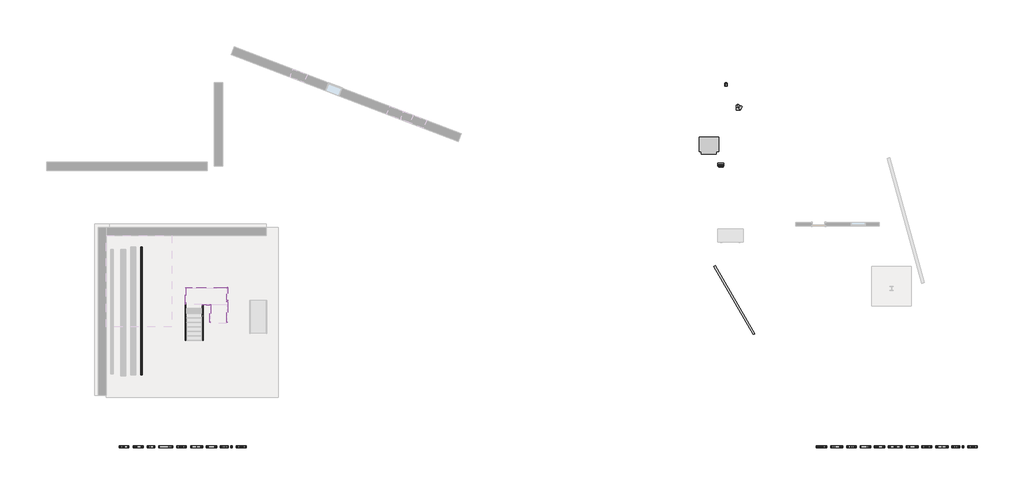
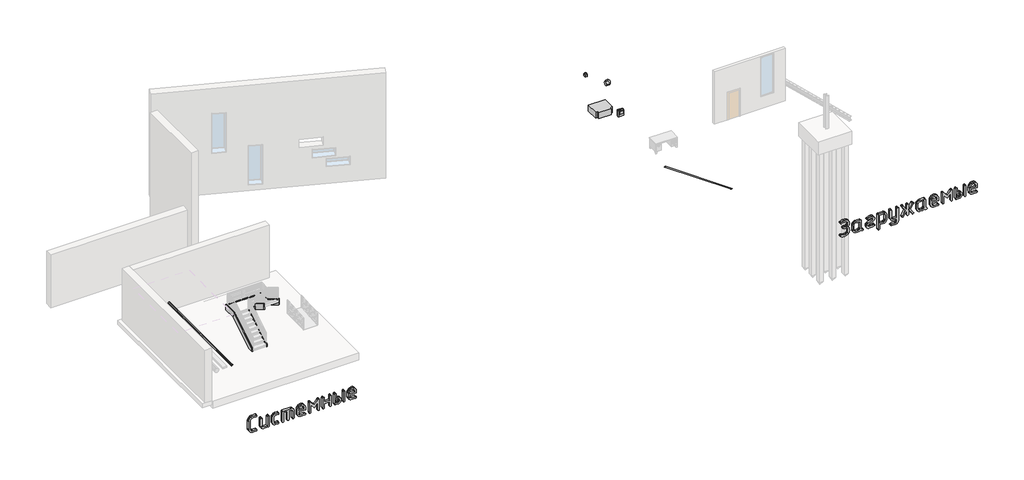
# One storey, part 5 of 6: 8 members, 4 proxies, 2 duct fittings, 1 cable carrier segment, 1 damper.
"""IFC4 building model written with IfcOpenShell, lengths in millimetres."""

from ifc_helpers import new_model, si_unit, point, frame, frame_2d, origin, place, context, project, spatial, polyline, circle_curve, trimmed, segment, composite_curve, outline, extrude, faceted_brep, transform, mapped, element, save
from components import mechanical_equipment_a20b9884, parking_5b8ad055, damper_459daeea, duct_fitting_f00111ba, duct_fitting_fdeae395

model = new_model("IFC4")

# Units and contexts
model_context = context("Model", 3, world=origin())
ifc_project = project(units=[si_unit("LENGTHUNIT", "METRE", prefix="MILLI")], contexts=[model_context])

# Site, building, storey
site = spatial("IfcSite", under=ifc_project)
building = spatial("IfcBuilding", under=site)
storey = spatial("IfcBuildingStorey", under=building, Name="Уровень 1", Elevation=0.0)

# Proxies
placement = place(None, origin())
element("IfcBuildingElementProxy", 1, Name="600 мм Arial", ObjectType="600 мм Arial", at=placement, inside=storey, context=model_context, shape_type="SweptSolid", body=[
    extrude(outline(polyline([(368.4887498, -11532.2012862), (368.4887498, -11772.6391287), (363.0191483, -11832.3779592), (346.6103438, -11887.2424426), (319.2623362, -11937.2325789), (280.9751256, -11982.348368), (234.9383769, -12019.6921566), (184.341755, -12046.3662913), (129.18526, -12062.3707721), (69.4688919, -12067.705599), (-528.5708239, -12067.705599), (-588.287192, -12062.3707721), (-643.443687, -12046.3662913), (-694.0403088, -12019.6921566), (-740.0770575, -11982.348368), (-778.3642682, -11937.2325789), (-805.7122757, -11887.2424426), (-822.1210803, -11832.3779592), (-827.5906818, -11772.6391287), (-827.5906818, -11532.2012862), (-823.9966931, -11505.9427064), (-813.2147271, -11487.186578), (-795.2447837, -11475.932901), (-770.086863, -11472.1816753), (-744.9289422, -11475.932901), (-726.9589989, -11487.186578), (-716.1770328, -11505.9427064), (-712.5830442, -11532.2012862), (-712.5830442, -11772.6391287), (-709.2698358, -11808.4891657), (-699.3302109, -11841.6437113), (-682.7641694, -11872.1027653), (-659.5717112, -11899.8663278), (-631.6846053, -11922.9801675), (-601.0346206, -11939.490053), (-567.6217571, -11949.3959843), (-531.4460148, -11952.6979614), (72.3440829, -11952.6979614), (96.5361192, -11951.1480538), (119.8745831, -11946.4983309), (142.3594748, -11938.7487928), (163.9907941, -11927.8994395), (203.1428083, -11898.7881312), (218.5239567, -11881.8065347), (231.1085327, -11863.2076433), (240.8965362, -11842.991457), (247.8879673, -11821.1579758), (253.4811122, -11772.6391287), (253.4811122, -11532.2012862), (257.0751009, -11505.9427064), (267.8570669, -11487.186578), (285.8270103, -11475.932901), (310.984931, -11472.1816753), (336.1428518, -11475.932901), (354.1127951, -11487.186578), (364.8947612, -11505.9427064), (368.4887498, -11532.2012862)])), frame((0.0, 248.4758454, 0.0), z_axis=(0.0, 1.0, 0.0), x_axis=(0.0, 0.0, 1.0)), (0.0, 0.0, 1.0), 150.0),
    extrude(outline(polyline([(-37.2725718, -10595.607837), (-10.699518, -10599.2018257), (8.2812347, -10609.9837917), (19.6696863, -10627.9537351), (23.4658369, -10653.1116558), (19.6247615, -10678.2695766), (8.1015353, -10696.2395199), (-11.1038417, -10707.021486), (-37.9913695, -10710.6154747), (-712.5830442, -10710.6154747), (-712.5830442, -10971.1796537), (-710.3143388, -10997.0114473), (-703.5082227, -11020.9563969), (-692.164696, -11043.0145024), (-676.2837585, -11063.1857639), (-657.2805434, -11080.0101233), (-636.5701836, -11092.027523), (-614.1526793, -11099.2379628), (-590.0280303, -11101.6414427), (-37.9913695, -11101.6414427), (-11.1038417, -11105.2354314), (8.1015353, -11116.0173974), (19.6247615, -11133.9873408), (23.4658369, -11159.1452615), (19.6696863, -11184.3031823), (8.2812347, -11202.2731257), (-10.699518, -11213.0550917), (-37.2725718, -11216.6490804), (-584.2776484, -11216.6490804), (-633.4928308, -11212.1453633), (-678.7097009, -11198.6342121), (-719.9282585, -11176.1156268), (-757.1485037, -11144.5896074), (-787.9669567, -11106.5494835), (-809.9801373, -11064.4885848), (-823.1880457, -11018.4069112), (-827.5906818, -10968.3044628), (-827.5906818, -10657.7838411), (-823.7945313, -10630.5818393), (-812.4060797, -10611.151838), (-793.425327, -10599.4938373), (-766.8522732, -10595.607837), (-37.2725718, -10595.607837)])), frame((0.0, 248.4758454, 0.0), z_axis=(0.0, 1.0, 0.0), x_axis=(0.0, 0.0, 1.0)), (0.0, 0.0, 1.0), 150.0),
    extrude(outline(polyline([(-234.2231513, -10250.584924), (-210.188352, -10248.3948372), (-188.0403968, -10241.8245766), (-167.7792856, -10230.8741424), (-149.4050185, -10215.5435344), (-134.153029, -10197.0906488), (-123.2587509, -10176.7733816), (-116.722184, -10154.5917327), (-114.5433283, -10130.5457022), (-114.5433283, -9950.1274706), (-110.9493396, -9923.8688909), (-100.1673736, -9905.1127625), (-82.1974302, -9893.8590854), (-57.0395095, -9890.1078597), (-31.8815888, -9893.8590854), (-13.9116454, -9905.1127625), (-3.1296793, -9923.8688909), (0.4643093, -9950.1274706), (0.4643093, -10130.5457022), (-3.8260146, -10178.9185436), (-16.6969866, -10223.0459858), (-38.1486065, -10262.9280289), (-68.1808744, -10298.5646729), (-104.4127727, -10327.8893742), (-144.4632841, -10348.8355895), (-188.3324083, -10361.4033186), (-236.0201456, -10365.5925617), (-591.1062269, -10365.5925617), (-638.7939641, -10361.4033186), (-682.6630884, -10348.8355895), (-722.7135997, -10327.8893742), (-758.9454981, -10298.5646729), (-788.977766, -10262.9280289), (-810.4293859, -10223.0459858), (-823.3003578, -10178.9185436), (-827.5906818, -10130.5457022), (-827.5906818, -9950.1274706), (-823.9966931, -9923.8688909), (-813.2147271, -9905.1127625), (-795.2447837, -9893.8590854), (-770.086863, -9890.1078597), (-744.9289422, -9893.8590854), (-726.9589989, -9905.1127625), (-716.1770328, -9923.8688909), (-712.5830442, -9950.1274706), (-712.5830442, -10130.5457022), (-710.3704949, -10154.1537153), (-703.732847, -10176.0995087), (-692.6701006, -10196.3830823), (-677.1822557, -10215.0044361), (-658.6395204, -10230.5708996), (-638.4121028, -10241.689802), (-616.5000031, -10248.3611435), (-592.9032212, -10250.584924), (-234.2231513, -10250.584924)])), frame((0.0, 248.4758454, 0.0), z_axis=(0.0, 1.0, 0.0), x_axis=(0.0, 0.0, 1.0)), (0.0, 0.0, 1.0), 150.0),
    extrude(outline(polyline([(0.4643093, -9591.8067995), (-3.2419915, -9618.3798533), (-14.360894, -9637.360606), (-32.8923981, -9648.7490576), (-58.8365038, -9652.5452082), (-768.2898686, -9652.5452082), (-794.2339744, -9648.9512195), (-812.7654785, -9638.1692535), (-823.884381, -9620.1993101), (-827.5906818, -9595.0413894), (-823.884381, -9569.8834686), (-812.7654785, -9551.9135252), (-794.2339744, -9541.1315592), (-768.2898686, -9537.5375705), (-114.5433283, -9537.5375705), (-114.5433283, -9284.5207677), (-768.2898686, -9284.5207677), (-794.2339744, -9280.926779), (-812.7654785, -9270.144813), (-823.884381, -9252.1748696), (-827.5906818, -9227.0169488), (-823.884381, -9201.8590281), (-812.7654785, -9183.8890847), (-794.2339744, -9173.1071187), (-768.2898686, -9169.51313), (-114.5433283, -9169.51313), (-114.5433283, -9043.0047286), (-116.6772591, -9017.2964783), (-123.0790514, -8993.7221589), (-133.7487053, -8972.2817702), (-148.6862208, -8952.9753122), (-166.7909387, -8937.0157563), (-186.9622002, -8925.6160734), (-209.2000051, -8918.7762637), (-233.5043535, -8916.4963272), (-768.2898686, -8916.4963272), (-794.2339744, -8912.9023385), (-812.7654785, -8902.1203725), (-823.884381, -8884.1504291), (-827.5906818, -8858.9925083), (-823.884381, -8833.8345876), (-812.7654785, -8815.8646442), (-794.2339744, -8805.0826782), (-768.2898686, -8801.4886895), (-236.0201456, -8801.4886895), (-188.6244199, -8805.9250193), (-144.9125326, -8819.2340086), (-104.8844838, -8841.4156575), (-68.5402733, -8872.4699659), (-38.3507684, -8909.8586793), (-16.7868363, -8951.0435433), (-3.8484771, -8996.0245579), (0.4643093, -9044.8017229), (0.4643093, -9591.8067995)])), frame((0.0, 248.4758454, 0.0), z_axis=(0.0, 1.0, 0.0), x_axis=(0.0, 0.0, 1.0)), (0.0, 0.0, 1.0), 150.0),
    extrude(outline(polyline([(-459.5662413, -8456.4657765), (-459.5662413, -7975.9494904), (-278.429212, -7975.9494904), (-217.3089421, -7981.3853983), (-161.1753314, -7997.6931219), (-110.02838, -8024.8726613), (-63.868088, -8062.9240164), (-25.6594959, -8108.8821466), (1.6323557, -8159.7820113), (18.0074666, -8215.6236103), (23.4658369, -8276.4069438), (17.9063856, -8336.1457744), (1.2280319, -8391.0102577), (-26.5692242, -8441.000394), (-65.4853829, -8486.1161831), (-112.2858542, -8523.4599717), (-163.7360483, -8550.1341064), (-219.8359653, -8566.1385872), (-280.5856052, -8571.4734142), (-584.2776484, -8571.4734142), (-633.4928308, -8567.2841711), (-678.7097009, -8554.716442), (-719.9282585, -8533.7702267), (-757.1485037, -8504.4455254), (-787.9669567, -8468.8088814), (-809.9801373, -8428.9268383), (-823.1880457, -8384.7993961), (-827.5906818, -8336.4265547), (-827.5906818, -8035.9691013), (-823.9966931, -8009.7105216), (-813.2147271, -7990.9543932), (-795.2447837, -7979.7007161), (-770.086863, -7975.9494904), (-744.9289422, -7979.7007161), (-726.9589989, -7990.9543932), (-716.1770328, -8009.7105216), (-712.5830442, -8035.9691013), (-712.5830442, -8336.4265547), (-710.2469515, -8360.0345678), (-703.2386736, -8381.9803612), (-691.5582104, -8402.2639348), (-675.2055619, -8420.8852886), (-655.6183236, -8436.4517521), (-634.234091, -8447.5706546), (-611.052864, -8454.241996), (-586.0746427, -8456.4657765), (-459.5662413, -8456.4657765)]), holes=[polyline([(-104.48016, -8276.4069438), (-107.7821371, -8240.3996698), (-117.6880684, -8207.1328121), (-134.1979539, -8176.6063707), (-157.3117936, -8148.8203458), (-185.0753561, -8125.7065061), (-215.5344101, -8109.1966206), (-248.6889557, -8099.2906893), (-284.5389927, -8095.9887122), (-344.5586036, -8095.9887122), (-344.5586036, -8456.4657765), (-284.5389927, -8456.4657765), (-248.6889557, -8453.1637994), (-215.5344101, -8443.2578681), (-185.0753561, -8426.7479827), (-157.3117936, -8403.634143), (-134.1979539, -8375.8705804), (-117.6880684, -8345.4115264), (-107.7821371, -8312.2569809), (-104.48016, -8276.4069438)])]), frame((0.0, 248.4758454, 0.0), z_axis=(0.0, 1.0, 0.0), x_axis=(0.0, 0.0, 1.0)), (0.0, 0.0, 1.0), 150.0),
    extrude(outline(polyline([(-519.9452511, -7355.9864437), (-212.2998203, -7106.9230284), (-766.8522732, -7099.3756521), (-793.425327, -7095.7816635), (-812.4060797, -7084.9996974), (-823.7945313, -7067.0297541), (-827.5906818, -7041.8718333), (-823.7945313, -7016.7139126), (-812.4060797, -6998.7439692), (-793.425327, -6987.9620032), (-766.8522732, -6984.3680145), (-37.2725718, -6984.3680145), (-10.699518, -6987.9620032), (8.2812347, -6998.7439692), (19.6696863, -7016.7139126), (23.4658369, -7041.8718333), (21.0848194, -7056.247788), (13.9417669, -7070.6237427), (2.0366794, -7084.9996974), (-14.6304431, -7099.3756521), (-322.2758738, -7352.392455), (-14.6304431, -7605.4092578), (2.0366794, -7619.7852126), (13.9417669, -7634.1611673), (21.0848194, -7648.537122), (23.4658369, -7662.9130767), (19.6696863, -7688.0709974), (8.2812347, -7706.0409408), (-10.699518, -7716.8229068), (-37.2725718, -7720.4168955), (-766.8522732, -7720.4168955), (-793.425327, -7716.8229068), (-812.4060797, -7706.0409408), (-823.7945313, -7688.0709974), (-827.5906818, -7662.9130767), (-823.7945313, -7637.7551559), (-812.4060797, -7619.7852126), (-793.425327, -7609.0032465), (-766.8522732, -7605.4092578), (-212.2998203, -7605.4092578), (-519.9452511, -7355.9864437)])), frame((0.0, 248.4758454, 0.0), z_axis=(0.0, 1.0, 0.0), x_axis=(0.0, 0.0, 1.0)), (0.0, 0.0, 1.0), 150.0),
    extrude(outline(polyline([(-459.5662413, -6639.3451015), (-459.5662413, -6248.3191335), (-766.1334754, -6248.3191335), (-793.0210032, -6244.7251448), (-812.2263802, -6233.9431788), (-823.7496064, -6215.9732354), (-827.5906818, -6190.8153146), (-823.7945313, -6165.6573939), (-812.4060797, -6147.6874505), (-793.425327, -6136.9054845), (-766.8522732, -6133.3114958), (-37.2725718, -6133.3114958), (-10.699518, -6136.9054845), (8.2812347, -6147.6874505), (19.6696863, -6165.6573939), (23.4658369, -6190.8153146), (19.6247615, -6215.9732354), (8.1015353, -6233.9431788), (-11.1038417, -6244.7251448), (-37.9913695, -6248.3191335), (-344.5586036, -6248.3191335), (-344.5586036, -6639.3451015), (-37.9913695, -6639.3451015), (-11.1038417, -6642.9390902), (8.1015353, -6653.7210562), (19.6247615, -6671.6909996), (23.4658369, -6696.8489203), (19.6696863, -6722.0068411), (8.2812347, -6739.9767845), (-10.699518, -6750.7587505), (-37.2725718, -6754.3527392), (-766.8522732, -6754.3527392), (-793.425327, -6750.7587505), (-812.4060797, -6739.9767845), (-823.7945313, -6722.0068411), (-827.5906818, -6696.8489203), (-823.7496064, -6671.6909996), (-812.2263802, -6653.7210562), (-793.0210032, -6642.9390902), (-766.1334754, -6639.3451015), (-459.5662413, -6639.3451015)])), frame((0.0, 248.4758454, 0.0), z_axis=(0.0, 1.0, 0.0), x_axis=(0.0, 0.0, 1.0)), (0.0, 0.0, 1.0), 150.0),
    extrude(outline(polyline([(-37.2725718, -5282.2549771), (-766.8522732, -5282.2549771), (-793.425327, -5278.6609884), (-812.4060797, -5267.8790224), (-823.7945313, -5249.909079), (-827.5906818, -5224.7511583), (-823.7945313, -5199.5932376), (-812.4060797, -5181.6232942), (-793.425327, -5170.8413281), (-766.8522732, -5167.2473395), (-37.2725718, -5167.2473395), (-10.699518, -5170.8413281), (8.2812347, -5181.6232942), (19.6696863, -5199.5932376), (23.4658369, -5224.7511583), (19.6696863, -5249.909079), (8.2812347, -5267.8790224), (-10.699518, -5278.6609884), (-37.2725718, -5282.2549771)])), frame((0.0, 248.4758454, 0.0), z_axis=(0.0, 1.0, 0.0), x_axis=(0.0, 0.0, 1.0)), (0.0, 0.0, 1.0), 150.0),
    extrude(outline(polyline([(-586.0746427, -5427.8115185), (-537.2076279, -5432.1692298), (-492.3164631, -5445.2423636), (-451.4011483, -5467.03092), (-414.4616834, -5497.5348989), (-383.879086, -5534.3508204), (-362.0343736, -5575.0752046), (-348.9275461, -5619.7080515), (-344.5586036, -5668.249361), (-344.5586036, -5788.2885828), (-37.9913695, -5788.2885828), (-11.1038417, -5791.8825715), (8.1015353, -5802.6645375), (19.6247615, -5820.6344809), (23.4658369, -5845.7924017), (19.6696863, -5870.9503224), (8.2812347, -5888.9202658), (-10.699518, -5899.7022318), (-37.2725718, -5903.2962205), (-766.8522732, -5903.2962205), (-793.425327, -5899.7022318), (-812.4060797, -5888.9202658), (-823.7945313, -5870.9503224), (-827.5906818, -5845.7924017), (-827.5906818, -5668.249361), (-823.2217393, -5619.7080515), (-810.1149119, -5575.0752046), (-788.2701994, -5534.3508204), (-757.687602, -5497.5348989), (-720.7481372, -5467.03092), (-679.8328223, -5445.2423636), (-634.9416575, -5432.1692298), (-586.0746427, -5427.8115185)]), holes=[polyline([(-586.0746427, -5547.8507403), (-611.4908814, -5550.0408272), (-634.9079639, -5556.6110877), (-656.3258901, -5567.561522), (-675.7446602, -5582.8921299), (-691.8614532, -5601.367478), (-703.3734482, -5621.7521325), (-710.2806452, -5644.0460935), (-712.5830442, -5668.249361), (-712.5830442, -5788.2885828), (-459.5662413, -5788.2885828), (-459.5662413, -5668.249361), (-461.8461779, -5643.7540819), (-468.6859876, -5621.3028839), (-480.0856704, -5600.895767), (-496.0452264, -5582.5327311), (-515.3516843, -5567.3593601), (-536.792073, -5556.521238), (-560.3663925, -5550.0183648), (-586.0746427, -5547.8507403)])]), frame((0.0, 248.4758454, 0.0), z_axis=(0.0, 1.0, 0.0), x_axis=(0.0, 0.0, 1.0)), (0.0, 0.0, 1.0), 150.0),
    extrude(outline(polyline([(-459.5662413, -4822.2244265), (-459.5662413, -4341.7081404), (-278.429212, -4341.7081404), (-217.3089421, -4347.1440483), (-161.1753314, -4363.4517719), (-110.02838, -4390.6313113), (-63.868088, -4428.6826664), (-25.6594959, -4474.6407966), (1.6323557, -4525.5406612), (18.0074666, -4581.3822603), (23.4658369, -4642.1655938), (17.9063856, -4701.9044243), (1.2280319, -4756.7689077), (-26.5692242, -4806.759044), (-65.4853829, -4851.8748331), (-112.2858542, -4889.2186217), (-163.7360483, -4915.8927564), (-219.8359653, -4931.8972372), (-280.5856052, -4937.2320641), (-584.2776484, -4937.2320641), (-633.4928308, -4933.0428211), (-678.7097009, -4920.4750919), (-719.9282585, -4899.5288767), (-757.1485037, -4870.2041753), (-787.9669567, -4834.5675313), (-809.9801373, -4794.6854882), (-823.1880457, -4750.558046), (-827.5906818, -4702.1852047), (-827.5906818, -4401.7277513), (-823.9966931, -4375.4691715), (-813.2147271, -4356.7130431), (-795.2447837, -4345.4593661), (-770.086863, -4341.7081404), (-744.9289422, -4345.4593661), (-726.9589989, -4356.7130431), (-716.1770328, -4375.4691715), (-712.5830442, -4401.7277513), (-712.5830442, -4702.1852047), (-710.2469515, -4725.7932178), (-703.2386736, -4747.7390112), (-691.5582104, -4768.0225848), (-675.2055619, -4786.6439386), (-655.6183236, -4802.210402), (-634.234091, -4813.3293045), (-611.052864, -4820.000646), (-586.0746427, -4822.2244265), (-459.5662413, -4822.2244265)]), holes=[polyline([(-104.48016, -4642.1655938), (-107.7821371, -4606.1583197), (-117.6880684, -4572.891462), (-134.1979539, -4542.3650207), (-157.3117936, -4514.5789957), (-185.0753561, -4491.4651561), (-215.5344101, -4474.9552706), (-248.6889557, -4465.0493393), (-284.5389927, -4461.7473622), (-344.5586036, -4461.7473622), (-344.5586036, -4822.2244265), (-284.5389927, -4822.2244265), (-248.6889557, -4818.9224494), (-215.5344101, -4809.0165181), (-185.0753561, -4792.5066326), (-157.3117936, -4769.3927929), (-134.1979539, -4741.6292304), (-117.6880684, -4711.1701764), (-107.7821371, -4678.0156308), (-104.48016, -4642.1655938)])]), frame((0.0, 248.4758454, 0.0), z_axis=(0.0, 1.0, 0.0), x_axis=(0.0, 0.0, 1.0)), (0.0, 0.0, 1.0), 150.0),
])
element("IfcBuildingElementProxy", 2, Name="600 мм Arial", ObjectType="600 мм Arial", at=placement, inside=storey, context=model_context, shape_type="SweptSolid", body=[
    extrude(outline(polyline([(253.4811122, 30670.0590454), (253.4811122, 30730.4380551), (250.122979, 30766.2880922), (240.0485795, 30799.4426377), (223.2579137, 30829.9016918), (199.7509815, 30857.6652543), (171.4820143, 30880.779094), (140.4052434, 30897.2889795), (106.5206689, 30907.1949108), (69.8282908, 30910.4968879), (33.259456, 30907.1724483), (-0.6138873, 30897.1991298), (-31.791739, 30880.5769321), (-60.2740993, 30857.3058554), (-84.016887, 30828.1046974), (-100.9760211, 30793.6922559), (-111.1515015, 30754.0685307), (-114.5433283, 30709.233522), (-114.5433283, 30669.3402476), (-114.5433283, 30633.7597597), (-118.8111899, 30593.8664854), (-124.1460168, 30579.3108313), (-131.6147745, 30568.3491658), (-150.3484405, 30554.6021591), (-172.406546, 30550.0198236), (-194.5994261, 30554.4673846), (-213.0186181, 30567.8100675), (-220.2515203, 30578.7829642), (-225.417879, 30593.9114103), (-229.550966, 30636.6349507), (-229.550966, 30671.137242), (-229.550966, 30707.4365276), (-235.256423, 30766.0859303), (-242.3882443, 30791.9570332), (-252.3727941, 30815.5257371), (-265.2100724, 30836.7920419), (-280.9000792, 30855.7559478), (-299.4428145, 30872.4174547), (-320.8382784, 30886.7765626), (-364.5052408, 30904.5668065), (-411.406793, 30910.4968879), (-531.8054137, 30910.4968879), (-568.2619363, 30907.2286044), (-601.7983432, 30897.423754), (-632.4146342, 30881.0823368), (-660.1108095, 30858.2043526), (-683.0674121, 30830.6092583), (-699.4649855, 30800.1165106), (-709.3035295, 30766.7261096), (-712.5830442, 30730.4380551), (-710.7860498, 30647.5966161), (-705.3950668, 30590.2724967), (-688.9525686, 30526.4791977), (-659.7514106, 30457.2949157), (-654.3604276, 30443.2783599), (-652.5634333, 30429.9806018), (-657.0109942, 30407.2036985), (-670.3536772, 30387.7512348), (-689.8061409, 30374.4085518), (-712.5830442, 30369.9609909), (-728.1944325, 30372.1173841), (-741.9639016, 30378.5865637), (-753.8914515, 30389.3685297), (-763.9770822, 30404.4632822), (-791.8080321, 30466.0777255), (-811.6872819, 30530.8818339), (-823.6148318, 30598.8756071), (-827.5906818, 30670.0590454), (-827.5906818, 30730.4380551), (-822.1435427, 30790.1768857), (-805.8021255, 30845.0413691), (-778.56643, 30895.0315053), (-740.4364564, 30940.1472944), (-694.5569447, 30977.491083), (-644.072635, 31004.1652177), (-588.9835273, 31020.1696986), (-529.2896216, 31025.5045255), (-404.6680643, 31022.7191843), (-331.2608455, 31014.3631606), (-285.6845766, 30999.0662463), (-243.837071, 30975.8176321), (-205.7183286, 30944.6173179), (-171.3283494, 30905.4653037), (-147.6866427, 30933.5994963), (-122.2254791, 30957.9824633), (-94.9448588, 30978.6142045), (-65.8447818, 30995.4947201), (-34.9252479, 31008.62401), (-2.1862573, 31018.0020742), (32.3721901, 31023.6289127), (68.7500942, 31025.5045255), (128.6349305, 31020.1696986), (183.9374313, 31004.1652177), (234.6575965, 30977.491083), (280.7954261, 30940.1472944), (319.1612553, 30895.0315053), (346.5654189, 30845.0413691), (363.0079171, 30790.1768857), (368.4887498, 30730.4380551), (368.4887498, 30670.0590454), (364.5128999, 30597.5278614), (352.58535, 30529.0848395), (332.7061001, 30464.7299798), (304.8751503, 30404.4632822), (294.5199704, 30389.3685297), (282.5025708, 30378.5865637), (268.8229514, 30372.1173841), (253.4811122, 30369.9609909), (231.1534575, 30374.4984016), (211.6111441, 30388.1106337), (197.998912, 30407.6529471), (193.4615013, 30429.9806018), (195.2584956, 30443.2783599), (200.6494786, 30457.2949157), (223.7633183, 30511.159821), (240.2732038, 30564.5754777), (250.1791351, 30617.5418858), (253.4811122, 30670.0590454)])), frame((0.0, 248.4758454, 0.0), z_axis=(0.0, 1.0, 0.0), x_axis=(0.0, 0.0, 1.0)), (0.0, 0.0, 1.0), 150.0),
    extrude(outline(polyline([(-768.2898686, 31996.600266), (-742.5029999, 31992.8490403), (-724.0838079, 31981.5953633), (-713.0322927, 31962.8392349), (-709.3484543, 31936.5806551), (-705.6421535, 31910.3220753), (-694.5232511, 31891.5659469), (-675.9917469, 31880.3122699), (-650.0476412, 31876.5610442), (-58.8365038, 31876.5610442), (-32.8923981, 31872.6750439), (-14.360894, 31861.0170432), (-3.2419915, 31841.5870419), (0.4643093, 31814.3850401), (0.4643093, 31503.8644184), (-3.8260146, 31453.76197), (-16.6969866, 31407.6802964), (-38.1486065, 31365.6193977), (-68.1808744, 31327.5792738), (-104.4127727, 31296.0532544), (-144.4632841, 31273.5346691), (-188.3324083, 31260.0235179), (-236.0201456, 31255.5198008), (-591.1062269, 31255.5198008), (-638.7939641, 31260.0235179), (-682.6630884, 31273.5346691), (-722.7135997, 31296.0532544), (-758.9454981, 31327.5792738), (-788.977766, 31365.6193977), (-810.4293859, 31407.6802964), (-823.3003578, 31453.76197), (-827.5906818, 31503.8644184), (-827.5906818, 31628.2164266), (-823.6148318, 31676.0614009), (-811.6872819, 31720.0428373), (-791.8080321, 31760.1607359), (-763.9770822, 31796.4150967), (-791.8080321, 31826.0655033), (-811.6872819, 31859.3098985), (-823.6148318, 31896.1482825), (-827.5906818, 31936.5806551), (-823.884381, 31962.8392349), (-812.7654785, 31981.5953633), (-794.2339744, 31992.8490403), (-768.2898686, 31996.600266)]), holes=[polyline([(-114.5433283, 31761.5534065), (-592.9032212, 31761.5534065), (-616.9380205, 31759.172389), (-639.0859757, 31752.0293365), (-659.3470869, 31740.1242491), (-677.721354, 31723.4571266), (-692.9733434, 31703.3981773), (-703.8676216, 31681.3176093), (-710.4041885, 31657.2154228), (-712.5830442, 31631.0916176), (-712.5830442, 31500.9892275), (-710.3704949, 31475.1574339), (-703.732847, 31451.2124843), (-692.6701006, 31429.1543788), (-677.1822557, 31408.9831173), (-658.6395204, 31392.1587578), (-638.4121028, 31380.1413582), (-616.5000031, 31372.9309184), (-592.9032212, 31370.5274385), (-234.2231513, 31370.5274385), (-210.188352, 31372.908456), (-188.0403968, 31380.0515085), (-167.7792856, 31391.956596), (-149.4050185, 31408.6237185), (-134.153029, 31428.6826678), (-123.2587509, 31450.7632357), (-116.722184, 31474.8654223), (-114.5433283, 31500.9892275), (-114.5433283, 31761.5534065)])]), frame((0.0, 248.4758454, 0.0), z_axis=(0.0, 1.0, 0.0), x_axis=(0.0, 0.0, 1.0)), (0.0, 0.0, 1.0), 150.0),
    extrude(outline(polyline([(-652.5634333, 32767.1514383), (-656.8762197, 32744.1499108), (-681.2479554, 32675.4822646), (-698.656338, 32601.3787106), (-709.1013676, 32521.8392487), (-712.5830442, 32436.8638789), (-710.954518, 32418.8602419), (-706.0689397, 32402.226813), (-697.9263091, 32386.9635924), (-686.5266262, 32373.0705799), (-672.8133132, 32361.5136601), (-657.729792, 32353.2587173), (-641.2760626, 32348.3057517), (-623.452125, 32346.6547631), (-597.1036955, 32349.8444281), (-574.8434281, 32359.4134229), (-556.6713229, 32375.3617477), (-542.5873797, 32397.6894023), (-395.5932429, 32706.0536308), (-380.0773199, 32734.4405258), (-362.2814603, 32759.0425014), (-342.2056642, 32779.8595577), (-319.8499315, 32796.8916946), (-295.2142622, 32810.1389123), (-268.2986564, 32819.6012106), (-239.103114, 32825.2785896), (-207.6276351, 32827.1710492), (-165.9373664, 32823.3299738), (-127.4816876, 32811.8067476), (-92.2605985, 32792.6013706), (-60.2740993, 32765.7138429), (-33.7010455, 32733.3679448), (-14.7202928, 32697.7874569), (-3.3318412, 32658.9723792), (0.4643093, 32616.9227116), (-3.5564655, 32525.9049484), (-15.61879, 32445.8488506), (-35.7226642, 32376.7544183), (-63.868088, 32318.6216515), (-74.3131176, 32304.627558), (-86.2406675, 32294.631777), (-99.6507377, 32288.6343084), (-114.5433283, 32286.6351522), (-136.870983, 32291.1725629), (-156.4132964, 32304.784795), (-170.0255285, 32324.3271085), (-174.5629392, 32346.6547631), (-172.7659449, 32362.0190647), (-167.3749619, 32375.0472737), (-142.4865903, 32421.9488259), (-127.4816876, 32464.8969906), (-117.7779181, 32527.5222433), (-114.5433283, 32616.9227116), (-116.1718544, 32634.9263487), (-121.0574328, 32651.5597775), (-129.2000634, 32666.8229982), (-140.5997462, 32680.7160106), (-154.3130593, 32692.2729305), (-169.3965805, 32700.5278732), (-185.8503099, 32705.4808389), (-203.6742475, 32707.1318274), (-229.5060411, 32704.0544746), (-251.2945975, 32694.8224162), (-269.0399166, 32679.4356522), (-282.7419984, 32657.8941825), (-431.5331296, 32346.6547631), (-447.0490526, 32318.5205705), (-464.8449122, 32294.1376036), (-484.9207083, 32273.5058623), (-507.276441, 32256.6253468), (-531.9121102, 32243.4960569), (-558.8277161, 32234.1179927), (-588.0232585, 32228.4911542), (-619.4987374, 32226.6155413), (-661.1890061, 32230.4566167), (-699.6446849, 32241.9798429), (-734.865774, 32261.1852199), (-766.8522732, 32288.0727477), (-793.425327, 32320.4186458), (-812.4060797, 32355.9991337), (-823.7945313, 32394.8142114), (-827.5906818, 32436.8638789), (-823.6148318, 32549.5803488), (-811.6872819, 32646.5731182), (-791.8080321, 32727.8421872), (-778.8865196, 32762.580334), (-763.9770822, 32793.3875557), (-753.8914515, 32808.1678341), (-741.9639016, 32818.7251758), (-728.1944325, 32825.0595809), (-712.5830442, 32827.1710492), (-686.3244644, 32823.4198235), (-667.568336, 32812.1661465), (-656.3146589, 32793.4100181), (-652.5634333, 32767.1514383)])), frame((0.0, 248.4758454, 0.0), z_axis=(0.0, 1.0, 0.0), x_axis=(0.0, 0.0, 1.0)), (0.0, 0.0, 1.0), 150.0),
    extrude(outline(polyline([(-59.1959027, 33072.6404759), (-1135.9549103, 33072.6404759), (-1162.0562531, 33076.2344645), (-1180.7000693, 33087.0164306), (-1191.8863591, 33104.986374), (-1195.6151223, 33130.1442947), (-1191.7740469, 33155.3022154), (-1180.2508207, 33173.2721588), (-1161.0454437, 33184.0541248), (-1134.157916, 33187.6481135), (-827.5906818, 33187.6481135), (-827.5906818, 33440.6649164), (-823.2778954, 33491.7894053), (-810.3395362, 33538.7808072), (-788.7756041, 33581.6391222), (-758.5860992, 33620.3643502), (-722.2418887, 33652.4406992), (-682.2138398, 33675.352377), (-638.5019526, 33689.0993837), (-591.1062269, 33693.6817192), (-236.0201456, 33693.6817192), (-188.3324083, 33689.1780022), (-144.4632841, 33675.666851), (-104.4127727, 33653.1482657), (-68.1808744, 33621.6222462), (-38.1486065, 33583.5821223), (-16.6969866, 33541.5212236), (-3.8260146, 33495.43955), (0.4643093, 33445.3371016), (0.4643093, 33134.81648), (-3.2644539, 33107.6144782), (-14.4507437, 33088.1844769), (-33.0945599, 33076.5264761), (-59.1959027, 33072.6404759)]), holes=[polyline([(-114.5433283, 33187.6481135), (-114.5433283, 33448.2122926), (-116.6997215, 33474.7741152), (-123.1689011, 33499.1121572), (-133.9508672, 33521.2264188), (-149.0456196, 33541.1168999), (-167.3075746, 33557.5481669), (-187.5911482, 33569.2847861), (-209.8963404, 33576.3267577), (-234.2231513, 33578.6740816), (-592.9032212, 33578.6740816), (-616.9380205, 33576.2930641), (-639.0859757, 33569.1500116), (-659.3470869, 33557.2449241), (-677.721354, 33540.5778016), (-692.9733434, 33520.5188523), (-703.8676216, 33498.4382844), (-710.4041885, 33474.3360978), (-712.5830442, 33448.2122926), (-712.5830442, 33187.6481135), (-114.5433283, 33187.6481135)])]), frame((0.0, 248.4758454, 0.0), z_axis=(0.0, 1.0, 0.0), x_axis=(0.0, 0.0, 1.0)), (0.0, 0.0, 1.0), 150.0),
    extrude(outline(polyline([(-955.8960776, 34429.7306002), (-981.6941775, 34427.3832764), (-1005.1786473, 34420.3413048), (-1026.3494869, 34408.6046856), (-1045.2066962, 34392.1734186), (-1060.6945412, 34372.2829375), (-1071.7572875, 34350.1686759), (-1078.3949354, 34325.8306338), (-1080.6074847, 34299.2688113), (-1080.6074847, 34038.7046322), (-1084.9651959, 34016.3769775), (-1098.0383297, 33996.8346641), (-1116.7719957, 33983.222432), (-1138.1113035, 33978.6850213), (-1163.2692242, 33982.436247), (-1181.2391676, 33993.689924), (-1192.0211336, 34012.4460524), (-1195.6151223, 34038.7046322), (-1195.6151223, 34294.596626), (-1191.1675613, 34345.1932478), (-1177.8248784, 34391.6792451), (-1155.5870734, 34434.0546179), (-1124.4541465, 34472.3193661), (-1086.9868146, 34504.0026225), (-1045.7457945, 34526.6335199), (-1000.7310863, 34540.2120584), (-951.94269, 34544.7382379), (-37.6319706, 34544.7382379), (-10.9016799, 34541.1442492), (8.191385, 34530.3622832), (19.6472239, 34512.3923398), (23.4658369, 34487.2344191), (19.6247615, 34462.0764983), (8.1015353, 34444.1065549), (-11.1038417, 34433.3245889), (-37.9913695, 34429.7306002), (-712.5830442, 34429.7306002), (-712.5830442, 34169.1664212), (-710.3143388, 34143.3346276), (-703.5082227, 34119.389678), (-692.164696, 34097.3315725), (-676.2837585, 34077.160311), (-657.2805434, 34060.3359515), (-636.5701836, 34048.3185519), (-614.1526793, 34041.1081121), (-590.0280303, 34038.7046322), (-37.9913695, 34038.7046322), (-11.1038417, 34035.1106435), (8.1015353, 34024.3286775), (19.6247615, 34006.3587341), (23.4658369, 33981.2008134), (19.6696863, 33956.0428926), (8.2812347, 33938.0729492), (-10.699518, 33927.2909832), (-37.2725718, 33923.6969945), (-584.2776484, 33923.6969945), (-633.0548135, 33928.2793301), (-678.035828, 33942.0263368), (-719.220692, 33964.9380146), (-756.6094054, 33997.0143635), (-787.6637139, 34035.7395915), (-809.8453627, 34078.5979065), (-823.154352, 34125.5893085), (-827.5906818, 34176.7137974), (-827.5906818, 34429.7306002), (-955.8960776, 34429.7306002)])), frame((0.0, 248.4758454, 0.0), z_axis=(0.0, 1.0, 0.0), x_axis=(0.0, 0.0, 1.0)), (0.0, 0.0, 1.0), 150.0),
    extrude(outline(polyline([(-421.4699613, 35142.7779537), (-766.8522732, 35142.7779537), (-793.425327, 35146.3719424), (-812.4060797, 35157.1539084), (-823.7945313, 35175.1238518), (-827.5906818, 35200.2817726), (-823.7945313, 35225.4396933), (-812.4060797, 35243.4096367), (-793.425327, 35254.1916027), (-766.8522732, 35257.7855914), (-421.4699613, 35257.7855914), (-800.9951656, 35507.9272033), (-812.6307039, 35517.5186606), (-820.9418028, 35529.0418868), (-825.9284621, 35542.4968819), (-827.5906818, 35557.8836459), (-823.7945313, 35584.1422257), (-812.4060797, 35602.8983541), (-793.425327, 35614.1520311), (-766.8522732, 35617.9032568), (-748.6127806, 35615.3874647), (-732.7093807, 35607.8400885), (-402.0624225, 35388.6067792), (-71.4154642, 35607.8400885), (-55.5120643, 35615.3874647), (-37.2725718, 35617.9032568), (-10.699518, 35614.1520311), (8.2812347, 35602.8983541), (19.6696863, 35584.1422257), (23.4658369, 35557.8836459), (21.8036171, 35542.4968819), (16.8169578, 35529.0418868), (8.505859, 35517.5186606), (-3.1296793, 35507.9272033), (-382.6548836, 35257.7855914), (-37.2725718, 35257.7855914), (-10.699518, 35254.1916027), (8.2812347, 35243.4096367), (19.6696863, 35225.4396933), (23.4658369, 35200.2817726), (19.6696863, 35175.1238518), (8.2812347, 35157.1539084), (-10.699518, 35146.3719424), (-37.2725718, 35142.7779537), (-382.6548836, 35142.7779537), (-3.1296793, 34892.276943), (8.505859, 34882.6854857), (16.8169578, 34871.1622595), (21.8036171, 34857.7072644), (23.4658369, 34842.3205003), (19.6696863, 34816.0619206), (8.2812347, 34797.3057922), (-10.699518, 34786.0521151), (-37.2725718, 34782.3008894), (-55.5120643, 34784.8166815), (-71.4154642, 34792.3640577), (-402.0624225, 35011.597367), (-732.7093807, 34792.3640577), (-748.6127806, 34784.8166815), (-766.8522732, 34782.3008894), (-789.9436504, 34786.7484504), (-809.6207384, 34800.0911334), (-823.098196, 34819.5435971), (-827.5906818, 34842.3205003), (-825.9284621, 34857.7072644), (-820.9418028, 34871.1622595), (-812.6307039, 34882.6854857), (-800.9951656, 34892.276943), (-421.4699613, 35142.7779537)])), frame((0.0, 248.4758454, 0.0), z_axis=(0.0, 1.0, 0.0), x_axis=(0.0, 0.0, 1.0)), (0.0, 0.0, 1.0), 150.0),
    extrude(outline(polyline([(-768.2898686, 36596.9057724), (-742.5029999, 36593.1545467), (-724.0838079, 36581.9008697), (-713.0322927, 36563.1447413), (-709.3484543, 36536.8861615), (-705.6421535, 36510.6275817), (-694.5232511, 36491.8714533), (-675.9917469, 36480.6177763), (-650.0476412, 36476.8665506), (-58.8365038, 36476.8665506), (-32.8923981, 36472.9805503), (-14.360894, 36461.3225496), (-3.2419915, 36441.8925483), (0.4643093, 36414.6905465), (0.4643093, 36104.1699248), (-3.8260146, 36054.0674764), (-16.6969866, 36007.9858028), (-38.1486065, 35965.9249041), (-68.1808744, 35927.8847802), (-104.4127727, 35896.3587608), (-144.4632841, 35873.8401755), (-188.3324083, 35860.3290243), (-236.0201456, 35855.8253072), (-591.1062269, 35855.8253072), (-638.7939641, 35860.3290243), (-682.6630884, 35873.8401755), (-722.7135997, 35896.3587608), (-758.9454981, 35927.8847802), (-788.977766, 35965.9249041), (-810.4293859, 36007.9858028), (-823.3003578, 36054.0674764), (-827.5906818, 36104.1699248), (-827.5906818, 36228.521933), (-823.6148318, 36276.3669073), (-811.6872819, 36320.3483437), (-791.8080321, 36360.4662423), (-763.9770822, 36396.7206031), (-791.8080321, 36426.3710097), (-811.6872819, 36459.6154049), (-823.6148318, 36496.4537889), (-827.5906818, 36536.8861615), (-823.884381, 36563.1447413), (-812.7654785, 36581.9008697), (-794.2339744, 36593.1545467), (-768.2898686, 36596.9057724)]), holes=[polyline([(-114.5433283, 36361.8589129), (-592.9032212, 36361.8589129), (-616.9380205, 36359.4778954), (-639.0859757, 36352.3348429), (-659.3470869, 36340.4297554), (-677.721354, 36323.7626329), (-692.9733434, 36303.7036836), (-703.8676216, 36281.6231157), (-710.4041885, 36257.5209291), (-712.5830442, 36231.397124), (-712.5830442, 36101.2947339), (-710.3704949, 36075.4629402), (-703.732847, 36051.5179907), (-692.6701006, 36029.4598852), (-677.1822557, 36009.2886237), (-658.6395204, 35992.4642642), (-638.4121028, 35980.4468646), (-616.5000031, 35973.2364248), (-592.9032212, 35970.8329449), (-234.2231513, 35970.8329449), (-210.188352, 35973.2139624), (-188.0403968, 35980.3570149), (-167.7792856, 35992.2621024), (-149.4050185, 36008.9292249), (-134.153029, 36028.9881742), (-123.2587509, 36051.0687421), (-116.722184, 36075.1709287), (-114.5433283, 36101.2947339), (-114.5433283, 36361.8589129)])]), frame((0.0, 248.4758454, 0.0), z_axis=(0.0, 1.0, 0.0), x_axis=(0.0, 0.0, 1.0)), (0.0, 0.0, 1.0), 150.0),
    extrude(outline(polyline([(-459.5662413, 36936.8971012), (-459.5662413, 37417.4133873), (-278.429212, 37417.4133873), (-217.3089421, 37411.9774794), (-161.1753314, 37395.6697558), (-110.02838, 37368.4902165), (-63.868088, 37330.4388613), (-25.6594959, 37284.4807311), (1.6323557, 37233.5808665), (18.0074666, 37177.7392674), (23.4658369, 37116.9559339), (17.9063856, 37057.2171034), (1.2280319, 37002.35262), (-26.5692242, 36952.3624837), (-65.4853829, 36907.2466946), (-112.2858542, 36869.902906), (-163.7360483, 36843.2287713), (-219.8359653, 36827.2242905), (-280.5856052, 36821.8894636), (-584.2776484, 36821.8894636), (-633.4928308, 36826.0787066), (-678.7097009, 36838.6464358), (-719.9282585, 36859.592651), (-757.1485037, 36888.9173524), (-787.9669567, 36924.5539964), (-809.9801373, 36964.4360395), (-823.1880457, 37008.5634817), (-827.5906818, 37056.936323), (-827.5906818, 37357.3937764), (-823.9966931, 37383.6523562), (-813.2147271, 37402.4084846), (-795.2447837, 37413.6621616), (-770.086863, 37417.4133873), (-744.9289422, 37413.6621616), (-726.9589989, 37402.4084846), (-716.1770328, 37383.6523562), (-712.5830442, 37357.3937764), (-712.5830442, 37056.936323), (-710.2469515, 37033.3283099), (-703.2386736, 37011.3825165), (-691.5582104, 36991.098943), (-675.2055619, 36972.4775891), (-655.6183236, 36956.9111257), (-634.234091, 36945.7922232), (-611.052864, 36939.1208817), (-586.0746427, 36936.8971012), (-459.5662413, 36936.8971012)]), holes=[polyline([(-104.48016, 37116.9559339), (-107.7821371, 37152.963208), (-117.6880684, 37186.2300657), (-134.1979539, 37216.756507), (-157.3117936, 37244.542532), (-185.0753561, 37267.6563716), (-215.5344101, 37284.1662571), (-248.6889557, 37294.0721884), (-284.5389927, 37297.3741655), (-344.5586036, 37297.3741655), (-344.5586036, 36936.8971012), (-284.5389927, 36936.8971012), (-248.6889557, 36940.1990783), (-215.5344101, 36950.1050096), (-185.0753561, 36966.6148951), (-157.3117936, 36989.7287348), (-134.1979539, 37017.4922973), (-117.6880684, 37047.9513513), (-107.7821371, 37081.1058969), (-104.48016, 37116.9559339)])]), frame((0.0, 248.4758454, 0.0), z_axis=(0.0, 1.0, 0.0), x_axis=(0.0, 0.0, 1.0)), (0.0, 0.0, 1.0), 150.0),
    extrude(outline(polyline([(-519.9452511, 38037.3764341), (-212.2998203, 38286.4398494), (-766.8522732, 38293.9872256), (-793.425327, 38297.5812143), (-812.4060797, 38308.3631803), (-823.7945313, 38326.3331237), (-827.5906818, 38351.4910444), (-823.7945313, 38376.6489652), (-812.4060797, 38394.6189086), (-793.425327, 38405.4008746), (-766.8522732, 38408.9948633), (-37.2725718, 38408.9948633), (-10.699518, 38405.4008746), (8.2812347, 38394.6189086), (19.6696863, 38376.6489652), (23.4658369, 38351.4910444), (21.0848194, 38337.1150897), (13.9417669, 38322.739135), (2.0366794, 38308.3631803), (-14.6304431, 38293.9872256), (-322.2758738, 38040.9704228), (-14.6304431, 37787.9536199), (2.0366794, 37773.5776652), (13.9417669, 37759.2017105), (21.0848194, 37744.8257558), (23.4658369, 37730.4498011), (19.6696863, 37705.2918803), (8.2812347, 37687.321937), (-10.699518, 37676.5399709), (-37.2725718, 37672.9459822), (-766.8522732, 37672.9459822), (-793.425327, 37676.5399709), (-812.4060797, 37687.321937), (-823.7945313, 37705.2918803), (-827.5906818, 37730.4498011), (-823.7945313, 37755.6077218), (-812.4060797, 37773.5776652), (-793.425327, 37784.3596312), (-766.8522732, 37787.9536199), (-212.2998203, 37787.9536199), (-519.9452511, 38037.3764341)])), frame((0.0, 248.4758454, 0.0), z_axis=(0.0, 1.0, 0.0), x_axis=(0.0, 0.0, 1.0)), (0.0, 0.0, 1.0), 150.0),
    extrude(outline(polyline([(-37.2725718, 39260.0513819), (-766.8522732, 39260.0513819), (-793.425327, 39263.6453706), (-812.4060797, 39274.4273367), (-823.7945313, 39292.39728), (-827.5906818, 39317.5552008), (-823.7945313, 39342.7131215), (-812.4060797, 39360.6830649), (-793.425327, 39371.4650309), (-766.8522732, 39375.0590196), (-37.2725718, 39375.0590196), (-10.699518, 39371.4650309), (8.2812347, 39360.6830649), (19.6696863, 39342.7131215), (23.4658369, 39317.5552008), (19.6696863, 39292.39728), (8.2812347, 39274.4273367), (-10.699518, 39263.6453706), (-37.2725718, 39260.0513819)])), frame((0.0, 248.4758454, 0.0), z_axis=(0.0, 1.0, 0.0), x_axis=(0.0, 0.0, 1.0)), (0.0, 0.0, 1.0), 150.0),
    extrude(outline(polyline([(-586.0746427, 39114.4948405), (-537.2076279, 39110.1371293), (-492.3164631, 39097.0639954), (-451.4011483, 39075.2754391), (-414.4616834, 39044.7714602), (-383.879086, 39007.9555387), (-362.0343736, 38967.2311545), (-348.9275461, 38922.5983076), (-344.5586036, 38874.0569981), (-344.5586036, 38754.0177762), (-37.9913695, 38754.0177762), (-11.1038417, 38750.4237876), (8.1015353, 38739.6418215), (19.6247615, 38721.6718782), (23.4658369, 38696.5139574), (19.6696863, 38671.3560367), (8.2812347, 38653.3860933), (-10.699518, 38642.6041273), (-37.2725718, 38639.0101386), (-766.8522732, 38639.0101386), (-793.425327, 38642.6041273), (-812.4060797, 38653.3860933), (-823.7945313, 38671.3560367), (-827.5906818, 38696.5139574), (-827.5906818, 38874.0569981), (-823.2217393, 38922.5983076), (-810.1149119, 38967.2311545), (-788.2701994, 39007.9555387), (-757.687602, 39044.7714602), (-720.7481372, 39075.2754391), (-679.8328223, 39097.0639954), (-634.9416575, 39110.1371293), (-586.0746427, 39114.4948405)]), holes=[polyline([(-586.0746427, 38994.4556187), (-611.4908814, 38992.2655319), (-634.9079639, 38985.6952713), (-656.3258901, 38974.7448371), (-675.7446602, 38959.4142291), (-691.8614532, 38940.9388811), (-703.3734482, 38920.5542266), (-710.2806452, 38898.2602655), (-712.5830442, 38874.0569981), (-712.5830442, 38754.0177762), (-459.5662413, 38754.0177762), (-459.5662413, 38874.0569981), (-461.8461779, 38898.5522771), (-468.6859876, 38921.0034751), (-480.0856704, 38941.4105921), (-496.0452264, 38959.773628), (-515.3516843, 38974.9469989), (-536.792073, 38985.785121), (-560.3663925, 38992.2879943), (-586.0746427, 38994.4556187)])]), frame((0.0, 248.4758454, 0.0), z_axis=(0.0, 1.0, 0.0), x_axis=(0.0, 0.0, 1.0)), (0.0, 0.0, 1.0), 150.0),
    extrude(outline(polyline([(-459.5662413, 39720.0819326), (-459.5662413, 40200.5982187), (-278.429212, 40200.5982187), (-217.3089421, 40195.1623108), (-161.1753314, 40178.8545872), (-110.02838, 40151.6750478), (-63.868088, 40113.6236927), (-25.6594959, 40067.6655625), (1.6323557, 40016.7656979), (18.0074666, 39960.9240988), (23.4658369, 39900.1407653), (17.9063856, 39840.4019348), (1.2280319, 39785.5374514), (-26.5692242, 39735.5473151), (-65.4853829, 39690.431526), (-112.2858542, 39653.0877374), (-163.7360483, 39626.4136027), (-219.8359653, 39610.4091219), (-280.5856052, 39605.0742949), (-584.2776484, 39605.0742949), (-633.4928308, 39609.263538), (-678.7097009, 39621.8312671), (-719.9282585, 39642.7774824), (-757.1485037, 39672.1021837), (-787.9669567, 39707.7388277), (-809.9801373, 39747.6208708), (-823.1880457, 39791.748313), (-827.5906818, 39840.1211544), (-827.5906818, 40140.5786078), (-823.9966931, 40166.8371875), (-813.2147271, 40185.593316), (-795.2447837, 40196.846993), (-770.086863, 40200.5982187), (-744.9289422, 40196.846993), (-726.9589989, 40185.593316), (-716.1770328, 40166.8371875), (-712.5830442, 40140.5786078), (-712.5830442, 39840.1211544), (-710.2469515, 39816.5131413), (-703.2386736, 39794.5673479), (-691.5582104, 39774.2837743), (-675.2055619, 39755.6624205), (-655.6183236, 39740.095957), (-634.234091, 39728.9770546), (-611.052864, 39722.3057131), (-586.0746427, 39720.0819326), (-459.5662413, 39720.0819326)]), holes=[polyline([(-104.48016, 39900.1407653), (-107.7821371, 39936.1480394), (-117.6880684, 39969.414897), (-134.1979539, 39999.9413384), (-157.3117936, 40027.7273633), (-185.0753561, 40050.841203), (-215.5344101, 40067.3510885), (-248.6889557, 40077.2570198), (-284.5389927, 40080.5589969), (-344.5586036, 40080.5589969), (-344.5586036, 39720.0819326), (-284.5389927, 39720.0819326), (-248.6889557, 39723.3839097), (-215.5344101, 39733.289841), (-185.0753561, 39749.7997265), (-157.3117936, 39772.9135661), (-134.1979539, 39800.6771287), (-117.6880684, 39831.1361827), (-107.7821371, 39864.2907282), (-104.48016, 39900.1407653)])]), frame((0.0, 248.4758454, 0.0), z_axis=(0.0, 1.0, 0.0), x_axis=(0.0, 0.0, 1.0)), (0.0, 0.0, 1.0), 150.0),
])
mechanical_equipment_shape = mechanical_equipment_a20b9884(model_context)
element("IfcBuildingElementProxy", 3, Name="M_Отопительный агрегат : 3–5 кВт", ObjectType="M_Отопительный агрегат : 3–5 кВт", at=placement, inside=storey, context=model_context, shape_type="MappedRepresentation", body=[
    mapped(mechanical_equipment_shape, transform((24383.7362044, 17427.2651146, 0.0), x_axis=(1.0, 0.0, 0.0), y_axis=(0.0, 1.0, 0.0), z_axis=(0.0, 0.0, 1.0))),
])
parking_shape = parking_5b8ad055(model_context)
element("IfcBuildingElementProxy", 4, Name="M_Место для парковки : 4800 x 2400мм - 60 градусов", ObjectType="M_Место для парковки : 4800 x 2400мм - 60 градусов", at=placement, inside=storey, context=model_context, shape_type="MappedRepresentation", body=[
    mapped(parking_shape, transform((24190.6914114, 11346.1546779, 0.0), x_axis=(1.0, 0.0, 0.0), y_axis=(0.0, 1.0, 0.0), z_axis=(0.0, 0.0, 1.0))),
])

# Cable carrier segment
element("IfcCableCarrierSegment", 5, ObjectType="Короб", at=placement, inside=storey, context=model_context, shape_type="SweptSolid", body=[
    extrude(outline(composite_curve([segment(trimmed(circle_curve(frame_2d((1200.0, -10709.3085886)), 57.15), [point((1200.0, -10766.4585886))], [point((1142.85, -10709.3085886))], False, "CARTESIAN"), True, "CONTINUOUS"), segment(trimmed(circle_curve(frame_2d((1200.0, -10709.3085886)), 57.15), [point((1142.85, -10709.3085886))], [point((1200.0, -10652.1585886))], False, "CARTESIAN"), True, "CONTINUOUS"), segment(trimmed(circle_curve(frame_2d((1200.0, -10709.3085886)), 57.15), [point((1200.0, -10652.1585886))], [point((1257.15, -10709.3085886))], False, "CARTESIAN"), True, "CONTINUOUS"), segment(trimmed(circle_curve(frame_2d((1200.0, -10709.3085886)), 57.15), [point((1257.15, -10709.3085886))], [point((1200.0, -10766.4585886))], False, "CARTESIAN"), True, "CONTINUOUS")], self_intersect=False)), frame((0.0, 4693.6426493, 0.0), z_axis=(0.0, 1.0, 0.0), x_axis=(0.0, 0.0, 1.0)), (0.0, 0.0, 1.0), 7800.0),
])

# Damper
damper_shape = damper_459daeea(model_context)
element("IfcDamper", 6, ObjectType="Серия 5.904-58. Прямоугольный взрывозащищенный обратный клапан : AZE 102.000", at=placement, inside=storey, context=model_context, shape_type="MappedRepresentation", body=[
    mapped(damper_shape, transform((24894.8613436, 22397.387814, 0.0), x_axis=(1.0, 0.0, 0.0), y_axis=(0.0, 1.0, 0.0), z_axis=(0.0, 0.0, 1.0))),
])

# Duct fittings
duct_fitting_shape = duct_fitting_f00111ba(model_context)
element("IfcDuctFitting", 7, ObjectType="M_Переходный тройник прямоугольного сечения - DTL : Стандартное", at=placement, inside=storey, context=model_context, shape_type="MappedRepresentation", body=[
    mapped(duct_fitting_shape, transform((23845.0919375, 18765.2905377, 0.0), x_axis=(1.0, 0.0, 0.0), y_axis=(0.0, 1.0, 0.0), z_axis=(0.0, 0.0, 1.0))),
])
duct_fitting_2_shape = duct_fitting_fdeae395(model_context)
element("IfcDuctFitting", 8, ObjectType="M_Отвод круглого сечения - Под углом : Стандартное", at=placement, inside=storey, context=model_context, shape_type="MappedRepresentation", body=[
    mapped(duct_fitting_2_shape, transform((25665.06101, 20994.058175, 0.0), x_axis=(1.0, 0.0, 0.0), y_axis=(0.0, 1.0, 0.0), z_axis=(0.0, 0.0, 1.0))),
])

# Members
element("IfcMember", 9, ObjectType="Косоур/тетива - Ширина 50 мм", at=placement, inside=storey, context=model_context, shape_type="SweptSolid", body=[
    extrude(outline(polyline([(6799.5507128, 0.0), (6799.5507128, 215.089535), (9009.3817163, 1612.6111183), (9125.2507763, 1212.6111183), (7207.8094456, 0.0), (6799.5507128, 0.0)])), frame((-8052.2328055, 0.0, 0.0), z_axis=(1.0, 0.0, 0.0), x_axis=(0.0, 1.0, 0.0)), (0.0, 0.0, 1.0), 50.0),
])
element("IfcMember", 10, ObjectType="Косоур/тетива - Ширина 50 мм", at=placement, inside=storey, context=model_context, shape_type="SweptSolid", body=[
    extrude(outline(polyline([(6799.5507128, 0.0), (6799.5507128, 215.089535), (8949.5507128, 1574.7733295), (8949.5507128, 1101.4964536), (7207.8094456, 0.0), (6799.5507128, 0.0)])), frame((-7002.2328055, 0.0, 0.0), z_axis=(1.0, 0.0, 0.0), x_axis=(0.0, 1.0, 0.0)), (0.0, 0.0, 1.0), 50.0),
])
element("IfcMember", 11, ObjectType="Косоур/тетива - Ширина 50 мм", at=placement, inside=storey, context=model_context, shape_type="SweptSolid", body=[
    extrude(outline(polyline([(9264.7197092, 1612.6111183), (9148.8506492, 1212.6111183), (7899.5507128, 2002.6822243), (7899.5507128, 2475.9591002), (9264.7197092, 1612.6111183)])), frame((-5502.2328055, 0.0, 0.0), z_axis=(1.0, 0.0, 0.0), x_axis=(0.0, 1.0, 0.0)), (0.0, 0.0, 1.0), 50.0),
])
element("IfcMember", 12, ObjectType="Косоур/тетива - Ширина 50 мм", at=placement, inside=storey, context=model_context, shape_type="SweptSolid", body=[
    extrude(outline(polyline([(8999.5507128, 1780.3069263), (8999.5507128, 1307.0300504), (7899.5507128, 2002.6822243), (7899.5507128, 2475.9591002), (8999.5507128, 1780.3069263)])), frame((-6552.2328055, 0.0, 0.0), z_axis=(1.0, 0.0, 0.0), x_axis=(0.0, 1.0, 0.0)), (0.0, 0.0, 1.0), 50.0),
])
element("IfcMember", 13, ObjectType="Косоур/тетива - Ширина 50 мм", at=placement, inside=storey, context=model_context, shape_type="Brep", body=[
    faceted_brep([(-5502.2328055, 9264.7197092, 1612.6111183), (-5452.2328055, 9264.7197092, 1612.6111183), (-5452.2328055, 10049.5507128, 1612.6111183), (-5502.2328055, 9999.5507128, 1612.6111183), (-5502.2328055, 9148.8506492, 1212.6111183), (-5502.2328055, 9999.5507128, 1212.6111183), (-5452.2328055, 9148.8506492, 1212.6111183), (-5452.2328055, 10049.5507128, 1212.6111183)], [[[0, 1, 2, 3]], [[4, 0, 3, 5]], [[6, 4, 5, 7]], [[1, 6, 7, 2]], [[1, 0, 4, 6]], [[2, 7, 5, 3]]]),
])
element("IfcMember", 14, ObjectType="Косоур/тетива - Ширина 50 мм", at=placement, inside=storey, context=model_context, shape_type="SweptSolid", body=[
    extrude(outline(polyline([(-5452.2328055, 10049.5507128), (-5502.2328055, 9999.5507128), (-8002.2328055, 9999.5507128), (-8052.2328055, 10049.5507128), (-5452.2328055, 10049.5507128)])), frame((0.0, 0.0, 1212.6111183), z_axis=(0.0, 0.0, 1.0), x_axis=(1.0, 0.0, 0.0)), (0.0, 0.0, 1.0), 400.0),
])
element("IfcMember", 15, ObjectType="Косоур/тетива - Ширина 50 мм", at=placement, inside=storey, context=model_context, shape_type="Brep", body=[
    faceted_brep([(-8002.2328055, 9999.5507128, 1612.6111183), (-8052.2328055, 10049.5507128, 1612.6111183), (-8052.2328055, 9009.3817163, 1612.6111183), (-8002.2328055, 9009.3817163, 1612.6111183), (-8002.2328055, 9999.5507128, 1212.6111183), (-8002.2328055, 9125.2507763, 1212.6111183), (-8052.2328055, 10049.5507128, 1212.6111183), (-8052.2328055, 9125.2507763, 1212.6111183)], [[[0, 1, 2, 3]], [[4, 0, 3, 5]], [[6, 4, 5, 7]], [[1, 6, 7, 2]], [[1, 0, 4, 6]], [[2, 7, 5, 3]]]),
])
element("IfcMember", 16, ObjectType="Косоур/тетива - Ширина 50 мм", at=placement, inside=storey, context=model_context, shape_type="SweptSolid", body=[
    extrude(outline(polyline([(-7002.2328055, 8949.5507128), (-7002.2328055, 8999.5507128), (-6552.2328055, 8999.5507128), (-6552.2328055, 8949.5507128), (-7002.2328055, 8949.5507128)])), frame((0.0, 0.0, 1212.6111183), z_axis=(0.0, 0.0, 1.0), x_axis=(1.0, 0.0, 0.0)), (0.0, 0.0, 1.0), 400.0),
])

save(model, "model.ifc")
